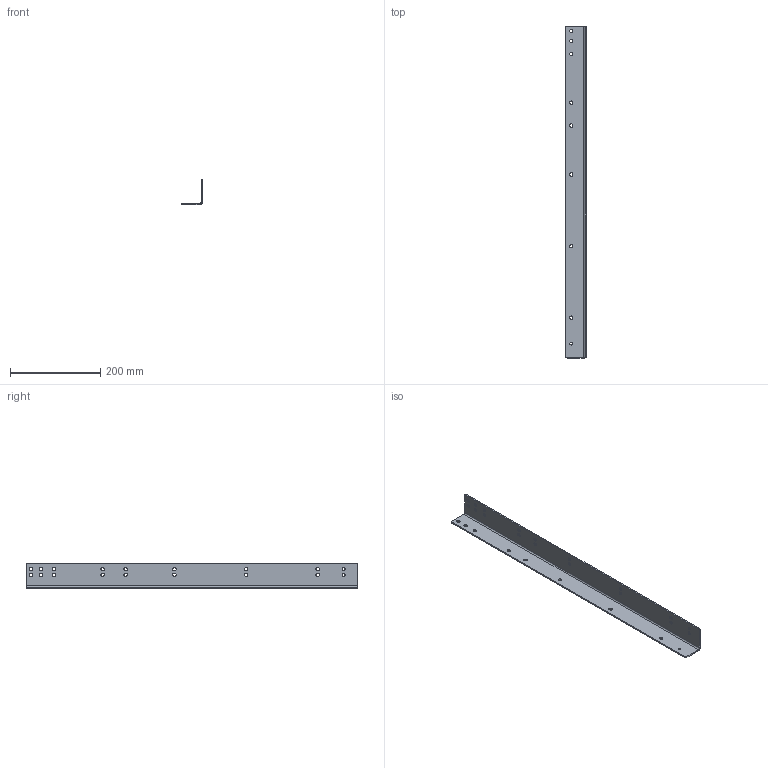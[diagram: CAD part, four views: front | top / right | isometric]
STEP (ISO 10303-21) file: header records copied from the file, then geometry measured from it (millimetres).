
FILE_DESCRIPTION(/* description */ (''),/* implementation_level */ '2;1');
FILE_NAME(/* name */ 'C:\Users\MelKon\Desktop\Montagewinkel_2257619_Aussenschiene\WI-AU_2257619-735_links.stp',/* time_stamp */ '2017-10-24T13:23:52+02:00',/* author */ ('MelKon'),/* organization */ (''),/* preprocessor_version */ 'ST-DEVELOPER v15.6',/* originating_system */ 'Autodesk Inventor 2015',/* authorisation */ '');
FILE_SCHEMA (('AUTOMOTIVE_DESIGN { 1 0 10303 214 3 1 1 }'));
Length unit declared in the file: millimetre
Products named in the file (1): WI-AU_2257619-735_links
Bounding box: 46.2 x 735 x 55.9 mm (x, y, z)
Volume: 212607.5 mm3; surface area: 147733.3 mm2
Topology: 1 solids, 1 shells, 113 faces, 333 edges, 222 vertices
Faces by surface type: cylinder 57, plane 56
Full cylindrical faces by diameter (mm): 6.4 x3
Entity records: 3918 total; most frequent: DIRECTION 672, CARTESIAN_POINT 666, ORIENTED_EDGE 660, EDGE_CURVE 330, AXIS2_PLACEMENT_3D 228, VERTEX_POINT 222, LINE 216, VECTOR 216
